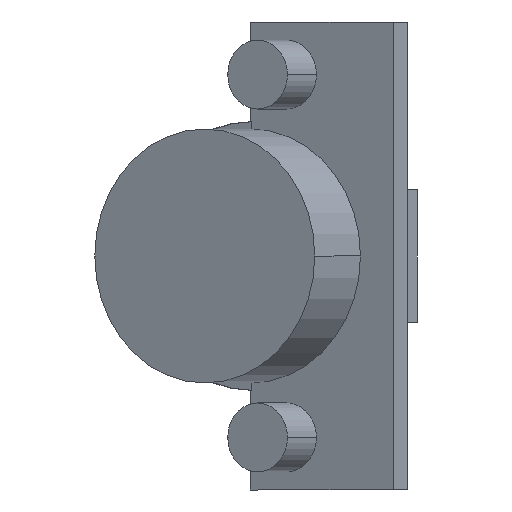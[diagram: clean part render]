
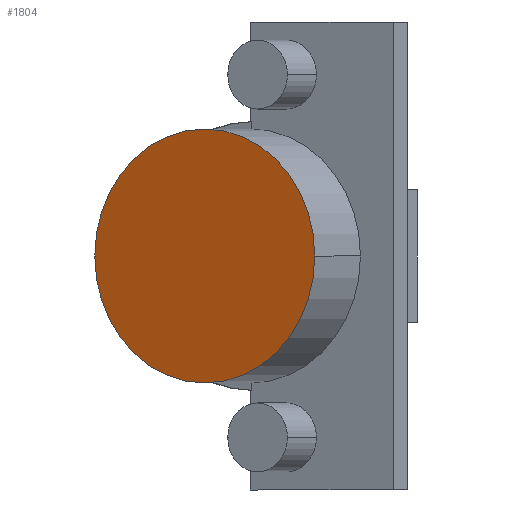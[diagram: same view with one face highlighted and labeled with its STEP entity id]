
A CAD part, front view. The second image highlights one B-rep face of the part: STEP entity #1804.
In plain terms, the highlighted planar face has unit normal (-0.5, -0.866, 0).
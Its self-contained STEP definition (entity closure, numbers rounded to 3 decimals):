
#91 = FACE_OUTER_BOUND ( 'NONE', #1614, .T. ) ;
#168 = CIRCLE ( 'NONE', #461, 17.5 ) ;
#249 = CIRCLE ( 'NONE', #290, 17.5 ) ;
#290 = AXIS2_PLACEMENT_3D ( 'NONE', #817, #826, #827 ) ;
#362 = EDGE_CURVE ( 'NONE', #625, #614, #249, .T. ) ;
#401 = EDGE_CURVE ( 'NONE', #614, #625, #168, .T. ) ;
#461 = AXIS2_PLACEMENT_3D ( 'NONE', #907, #911, #912 ) ;
#496 = AXIS2_PLACEMENT_3D ( 'NONE', #1156, #1159, #1160 ) ;
#614 = VERTEX_POINT ( 'NONE', #1054 ) ;
#625 = VERTEX_POINT ( 'NONE', #1065 ) ;
#817 = CARTESIAN_POINT ( 'NONE',  ( 14.05, -10.912, 0. ) ) ;
#826 = DIRECTION ( 'NONE',  ( -0.5, -0.866, 0. ) ) ;
#827 = DIRECTION ( 'NONE',  ( 0.866, -0.5, 0. ) ) ;
#907 = CARTESIAN_POINT ( 'NONE',  ( 14.05, -10.912, 0. ) ) ;
#911 = DIRECTION ( 'NONE',  ( -0.5, -0.866, 0. ) ) ;
#912 = DIRECTION ( 'NONE',  ( 0.866, -0.5, 0. ) ) ;
#1054 = CARTESIAN_POINT ( 'NONE',  ( 29.205, -19.662, 0. ) ) ;
#1065 = CARTESIAN_POINT ( 'NONE',  ( -1.105, -2.162, 0. ) ) ;
#1156 = CARTESIAN_POINT ( 'NONE',  ( 14.05, -10.912, 0. ) ) ;
#1157 = PLANE ( 'NONE',  #496 ) ;
#1159 = DIRECTION ( 'NONE',  ( -0.5, -0.866, 0. ) ) ;
#1160 = DIRECTION ( 'NONE',  ( 0.866, -0.5, 0. ) ) ;
#1522 = ORIENTED_EDGE ( 'NONE', *, *, #401, .T. ) ;
#1523 = ORIENTED_EDGE ( 'NONE', *, *, #362, .T. ) ;
#1614 = EDGE_LOOP ( 'NONE', ( #1523, #1522 ) ) ;
#1804 = ADVANCED_FACE ( 'NONE', ( #91 ), #1157, .T. ) ;
